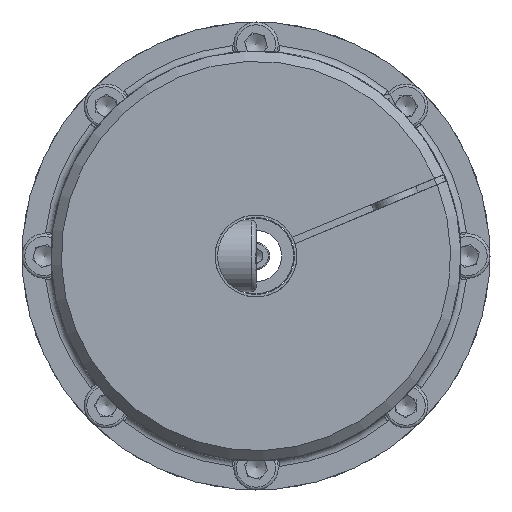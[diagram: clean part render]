
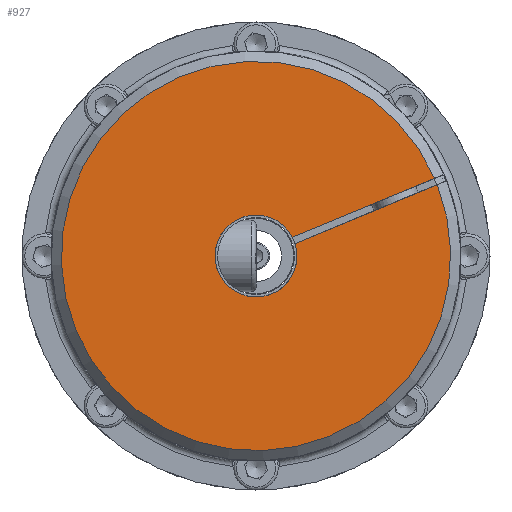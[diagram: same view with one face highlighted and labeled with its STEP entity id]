
A CAD part, left-side view. The second image highlights one B-rep face of the part: STEP entity #927.
In plain terms, the highlighted planar face has unit normal (-1, 0, 0).
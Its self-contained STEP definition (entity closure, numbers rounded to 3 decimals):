
#927 = ADVANCED_FACE( '', ( #1835 ), #1836, .F. );
#1835 = FACE_OUTER_BOUND( '', #3077, .T. );
#1836 = PLANE( '', #3078 );
#3077 = EDGE_LOOP( '', ( #5791, #5792, #5793, #5794 ) );
#3078 = AXIS2_PLACEMENT_3D( '', #5795, #5796, #5797 );
#5791 = ORIENTED_EDGE( '', *, *, #8480, .T. );
#5792 = ORIENTED_EDGE( '', *, *, #8481, .T. );
#5793 = ORIENTED_EDGE( '', *, *, #8383, .F. );
#5794 = ORIENTED_EDGE( '', *, *, #8358, .T. );
#5795 = CARTESIAN_POINT( '', ( -54.5, 0., 57. ) );
#5796 = DIRECTION( '', ( 1., 0., 0. ) );
#5797 = DIRECTION( '', ( 0., 0., -1. ) );
#8358 = EDGE_CURVE( '', #10057, #10055, #10058, .T. );
#8383 = EDGE_CURVE( '', #10057, #10101, #10102, .T. );
#8480 = EDGE_CURVE( '', #10055, #10255, #10256, .T. );
#8481 = EDGE_CURVE( '', #10255, #10101, #10257, .T. );
#10055 = VERTEX_POINT( '', #14776 );
#10057 = VERTEX_POINT( '', #14781 );
#10058 = LINE( '', #14782, #14783 );
#10101 = VERTEX_POINT( '', #14828 );
#10102 = CIRCLE( '', #14829, 12. );
#10255 = VERTEX_POINT( '', #15217 );
#10256 = CIRCLE( '', #15218, 57. );
#10257 = LINE( '', #15219, #15220 );
#14776 = CARTESIAN_POINT( '', ( -54.5, -53.036, -20.886 ) );
#14781 = CARTESIAN_POINT( '', ( -54.5, -11.431, -3.652 ) );
#14782 = CARTESIAN_POINT( '', ( -54.5, 19.77, 9.271 ) );
#14783 = VECTOR( '', #17809, 1000. );
#14828 = CARTESIAN_POINT( '', ( -54.5, -10.665, -5.5 ) );
#14829 = AXIS2_PLACEMENT_3D( '', #17878, #17879, #17880 );
#15217 = CARTESIAN_POINT( '', ( -54.5, -52.27, -22.733 ) );
#15218 = AXIS2_PLACEMENT_3D( '', #18023, #18024, #18025 );
#15219 = CARTESIAN_POINT( '', ( -54.5, 20.535, 7.424 ) );
#15220 = VECTOR( '', #18026, 1000. );
#17809 = DIRECTION( '', ( 0., -0.924, -0.383 ) );
#17878 = CARTESIAN_POINT( '', ( -54.5, 0., 0. ) );
#17879 = DIRECTION( '', ( -1., 0., 0. ) );
#17880 = DIRECTION( '', ( 0., 0., 1. ) );
#18023 = CARTESIAN_POINT( '', ( -54.5, 0., 0. ) );
#18024 = DIRECTION( '', ( -1., 0., 0. ) );
#18025 = DIRECTION( '', ( 0., 0., 1. ) );
#18026 = DIRECTION( '', ( 0., 0.924, 0.383 ) );
